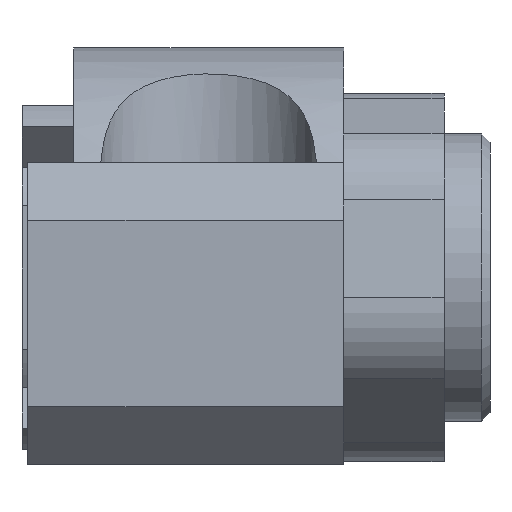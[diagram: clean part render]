
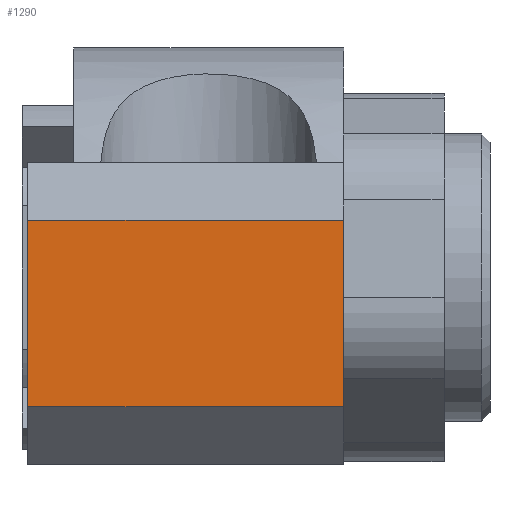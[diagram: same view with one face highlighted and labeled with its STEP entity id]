
A CAD part, left-side view. The second image highlights one B-rep face of the part: STEP entity #1290.
In plain terms, the highlighted planar face has unit normal (-1, 0, 0).
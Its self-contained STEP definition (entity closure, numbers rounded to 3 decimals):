
#626 = CARTESIAN_POINT ( 'NONE',  ( -16., 6.3, -4.5 ) ) ;
#641 = DIRECTION ( 'NONE',  ( 0., 0., -1. ) ) ;
#642 = VECTOR ( 'NONE', #641, 1000. ) ;
#643 = CARTESIAN_POINT ( 'NONE',  ( -16., 6.3, 2. ) ) ;
#644 = LINE ( 'NONE', #643, #642 ) ;
#645 = CARTESIAN_POINT ( 'NONE',  ( -16., 6.3, 2. ) ) ;
#753 = FACE_OUTER_BOUND ( 'NONE', #1293, .T. ) ;
#758 = PLANE ( 'NONE',  #815 ) ;
#802 = CARTESIAN_POINT ( 'NONE',  ( -16., -4.7, -4.5 ) ) ;
#803 = DIRECTION ( 'NONE',  ( 0., 1., 0. ) ) ;
#804 = VECTOR ( 'NONE', #803, 1000. ) ;
#805 = CARTESIAN_POINT ( 'NONE',  ( -16., -4.7, -4.5 ) ) ;
#806 = LINE ( 'NONE', #805, #804 ) ;
#807 = CARTESIAN_POINT ( 'NONE',  ( -16., -4.7, 2. ) ) ;
#808 = DIRECTION ( 'NONE',  ( 0., 1., 0. ) ) ;
#809 = VECTOR ( 'NONE', #808, 1000. ) ;
#810 = CARTESIAN_POINT ( 'NONE',  ( -16., -4.7, 2. ) ) ;
#811 = LINE ( 'NONE', #810, #809 ) ;
#812 = DIRECTION ( 'NONE',  ( 0., 0., -1. ) ) ;
#813 = DIRECTION ( 'NONE',  ( 1., 0., 0. ) ) ;
#814 = CARTESIAN_POINT ( 'NONE',  ( -16., -4.7, 2. ) ) ;
#815 = AXIS2_PLACEMENT_3D ( 'NONE', #814, #813, #812 ) ;
#905 = DIRECTION ( 'NONE',  ( 0., 0., -1. ) ) ;
#906 = VECTOR ( 'NONE', #905, 1000. ) ;
#907 = CARTESIAN_POINT ( 'NONE',  ( -16., -4.7, 2. ) ) ;
#908 = LINE ( 'NONE', #907, #906 ) ;
#1165 = VERTEX_POINT ( 'NONE', #645 ) ;
#1167 = EDGE_CURVE ( 'NONE', #1165, #1182, #644, .T. ) ;
#1182 = VERTEX_POINT ( 'NONE', #626 ) ;
#1290 = ADVANCED_FACE ( 'NONE', ( #753 ), #758, .F. ) ;
#1293 = EDGE_LOOP ( 'NONE', ( #1295, #1298, #1300, #1306 ) ) ;
#1295 = ORIENTED_EDGE ( 'NONE', *, *, #1296, .T. ) ;
#1296 = EDGE_CURVE ( 'NONE', #1297, #1165, #811, .T. ) ;
#1297 = VERTEX_POINT ( 'NONE', #807 ) ;
#1298 = ORIENTED_EDGE ( 'NONE', *, *, #1167, .T. ) ;
#1300 = ORIENTED_EDGE ( 'NONE', *, *, #1302, .F. ) ;
#1302 = EDGE_CURVE ( 'NONE', #1305, #1182, #806, .T. ) ;
#1305 = VERTEX_POINT ( 'NONE', #802 ) ;
#1306 = ORIENTED_EDGE ( 'NONE', *, *, #1400, .F. ) ;
#1400 = EDGE_CURVE ( 'NONE', #1297, #1305, #908, .T. ) ;
